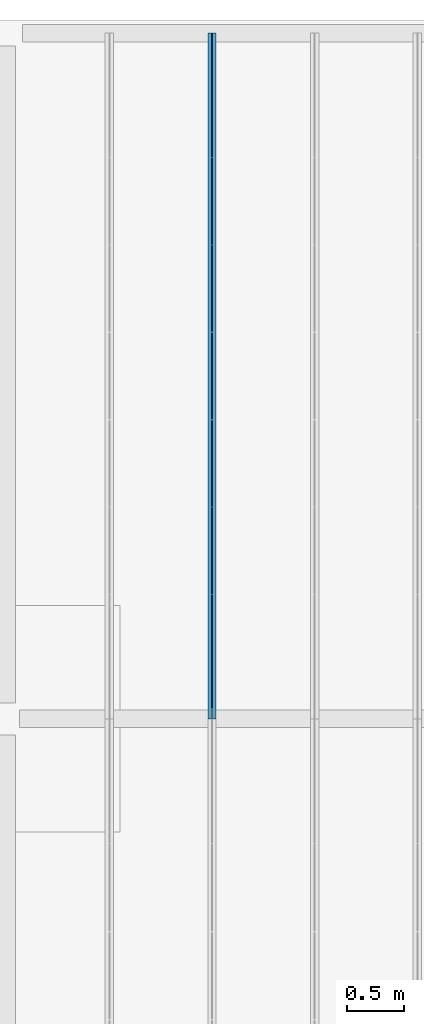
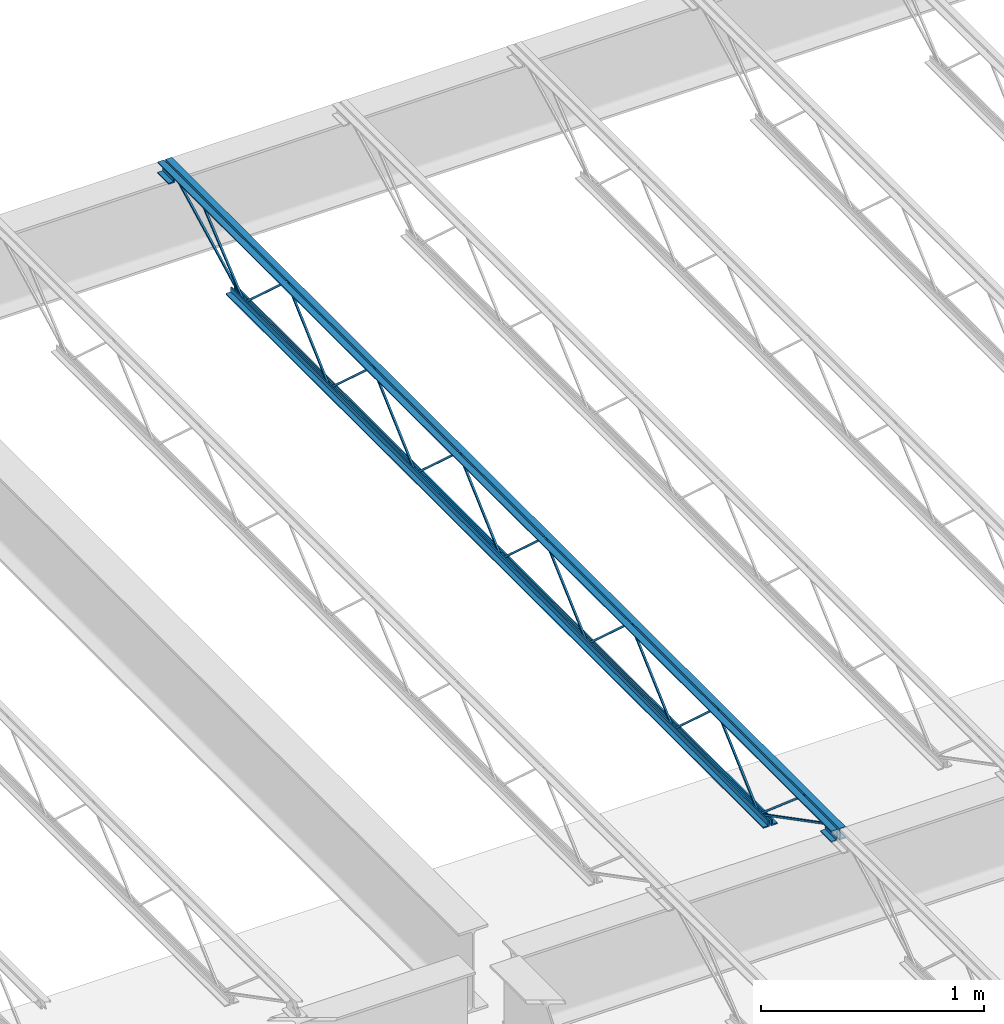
# One storey, part 41 of 75: 1 beam.
"""IFC2X3 building model written with IfcOpenShell, lengths in metres."""

from ifc_helpers import new_model, entity, si_unit, converted_unit, frame, origin, place, context, project, spatial, face_set, surface_model, element, save


model = new_model("IFC2X3")

# Units and contexts
model_context = context("Model", 3, precision=1e-09, world=origin())
plan_context = context("Plan", 3, precision=1e-09, world=origin())
ifc_project = project(units=[si_unit("LENGTHUNIT", "METRE"), si_unit("AREAUNIT", "SQUARE_METRE"), si_unit("VOLUMEUNIT", "CUBIC_METRE"), converted_unit("PLANEANGLEUNIT", "DEGREE", entity("IfcRatioMeasure", 0.01745329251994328), si_unit("PLANEANGLEUNIT", "RADIAN"), dimensions=[0, 0, 0, 0, 0, 0, 0]), si_unit("TIMEUNIT", "SECOND")], contexts=[model_context, plan_context])

# Site, building, storey
site_placement = place(None, origin())
site = spatial("IfcSite", under=ifc_project, at=site_placement, Name="Default", CompositionType="ELEMENT")
building_placement = place(site_placement, origin())
building = spatial("IfcBuilding", under=site, at=building_placement, CompositionType="ELEMENT")
storey_placement = place(building_placement, origin())
storey = spatial("IfcBuildingStorey", under=building, at=storey_placement, Name="First Floor", CompositionType="ELEMENT", Elevation=-3.531500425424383e-13)

# Beam
beam_placement = place(storey_placement, frame((-45.22532142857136, 50.09000000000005, 4.112000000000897), z_axis=(0.0, 0.0, 1.0), x_axis=(-1.0, 0.0, 0.0)))
element("IfcBeam", 1, at=beam_placement, inside=storey, Name="M_K-Series Bar Joist-Rod Web:14K1:14K1", ObjectType="M_K-Series Bar Joist-Rod Web:14K1", context=model_context, shape_type="SurfaceModel", body=[
    surface_model("IfcFaceBasedSurfaceModel", [(-0.03200000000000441, -2.254000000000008, 0.01110000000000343), (-0.0415000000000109, -2.254000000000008, 0.01110000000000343), (-0.0415000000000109, -2.254000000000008, 0.001600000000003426), (-0.03200000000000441, -2.254000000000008, 0.001600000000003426), (-0.04150000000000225, -2.252655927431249, 0.01110000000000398), (-0.03200000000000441, -2.252655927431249, 0.01110000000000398), (-0.04150000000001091, -2.248994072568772, 0.001600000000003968), (-0.04150000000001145, -1.869844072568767, 0.3449000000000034), (-0.04150000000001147, -1.86715592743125, 0.3449000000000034), (-0.04150000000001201, -1.48800592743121, 0.001600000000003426), (-0.04150000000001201, -1.483000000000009, 0.001600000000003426), (-0.04150000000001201, -1.483000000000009, 0.01110000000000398), (-0.04150000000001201, -1.484344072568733, 0.01110000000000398), (-0.04150000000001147, -1.863494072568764, 0.3544000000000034), (-0.04150000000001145, -1.873505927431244, 0.3544000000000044), (-0.03200000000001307, -2.248994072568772, 0.001600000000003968), (-0.03200000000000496, -1.869844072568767, 0.3449000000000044), (-0.03200000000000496, -1.86715592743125, 0.3449000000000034), (-0.0320000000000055, -1.48800592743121, 0.001600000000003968), (-0.03200000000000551, -1.483000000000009, 0.001600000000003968), (-0.03200000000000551, -1.483000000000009, 0.01110000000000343), (-0.0320000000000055, -1.484344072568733, 0.01110000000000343), (-0.03200000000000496, -1.863494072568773, 0.3544000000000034), (-0.03200000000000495, -1.873505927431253, 0.3544000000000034), (-0.0320000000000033, -3.025000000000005, 0.01110000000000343), (-0.04150000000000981, -3.025000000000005, 0.01110000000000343), (-0.04150000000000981, -3.025000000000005, 0.001600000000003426), (-0.0320000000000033, -3.025000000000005, 0.001600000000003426), (-0.04150000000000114, -3.023655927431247, 0.01110000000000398), (-0.0320000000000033, -3.023655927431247, 0.01110000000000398), (-0.04150000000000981, -3.01999407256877, 0.001600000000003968), (-0.04150000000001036, -2.640844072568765, 0.3449000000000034), (-0.04150000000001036, -2.638155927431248, 0.3449000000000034), (-0.0415000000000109, -2.259005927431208, 0.001600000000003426), (-0.0415000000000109, -2.254000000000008, 0.01110000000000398), (-0.0415000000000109, -2.255344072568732, 0.01110000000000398), (-0.04150000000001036, -2.634494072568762, 0.3544000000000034), (-0.04150000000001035, -2.644505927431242, 0.3544000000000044), (-0.03200000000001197, -3.01999407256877, 0.001600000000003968), (-0.03200000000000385, -2.640844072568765, 0.3449000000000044), (-0.03200000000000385, -2.638155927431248, 0.3449000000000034), (-0.03200000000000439, -2.259005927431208, 0.001600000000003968), (-0.03200000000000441, -2.254000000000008, 0.001600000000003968), (-0.0320000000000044, -2.255344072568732, 0.01110000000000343), (-0.03200000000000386, -2.634494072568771, 0.3544000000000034), (-0.03200000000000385, -2.644505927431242, 0.3544000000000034), (-0.03200000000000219, -3.796000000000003, 0.01110000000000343), (-0.0415000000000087, -3.796000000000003, 0.01110000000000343), (-0.0415000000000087, -3.796000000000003, 0.001600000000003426), (-0.03200000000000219, -3.796000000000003, 0.001600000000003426), (-0.04150000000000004, -3.794655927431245, 0.01110000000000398), (-0.03200000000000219, -3.794655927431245, 0.01110000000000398), (-0.0415000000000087, -3.790994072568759, 0.001600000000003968), (-0.04150000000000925, -3.411844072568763, 0.3449000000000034), (-0.04150000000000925, -3.409155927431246, 0.3449000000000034), (-0.04150000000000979, -3.030005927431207, 0.001600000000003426), (-0.04150000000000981, -3.025000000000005, 0.01110000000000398), (-0.04150000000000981, -3.026344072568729, 0.01110000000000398), (-0.04150000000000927, -3.40549407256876, 0.3544000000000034), (-0.04150000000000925, -3.41550592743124, 0.3544000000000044), (-0.03200000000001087, -3.790994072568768, 0.001600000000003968), (-0.03200000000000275, -3.411844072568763, 0.3449000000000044), (-0.03200000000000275, -3.409155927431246, 0.3449000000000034), (-0.03200000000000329, -3.030005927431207, 0.001600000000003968), (-0.0320000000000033, -3.025000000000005, 0.001600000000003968), (-0.0320000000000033, -3.026344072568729, 0.01110000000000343), (-0.03200000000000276, -3.40549407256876, 0.3544000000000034), (-0.03200000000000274, -3.41550592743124, 0.3544000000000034), (-0.03200000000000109, -4.567000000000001, 0.01110000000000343), (-0.04150000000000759, -4.567000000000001, 0.01110000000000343), (-0.04150000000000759, -4.567000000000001, 0.001600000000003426), (-0.03200000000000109, -4.567000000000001, 0.001600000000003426), (-0.04149999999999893, -4.565655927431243, 0.01110000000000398), (-0.03200000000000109, -4.565655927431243, 0.01110000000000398), (-0.04150000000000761, -4.561994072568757, 0.001600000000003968), (-0.04150000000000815, -4.182844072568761, 0.3449000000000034), (-0.04150000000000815, -4.180155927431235, 0.3449000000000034), (-0.0415000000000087, -3.801005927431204, 0.001600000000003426), (-0.0415000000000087, -3.795999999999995, 0.001600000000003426), (-0.0415000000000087, -3.796000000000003, 0.01110000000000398), (-0.0415000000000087, -3.797344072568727, 0.01110000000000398), (-0.04150000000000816, -4.176494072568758, 0.3544000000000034), (-0.04150000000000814, -4.186505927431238, 0.3544000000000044), (-0.03200000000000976, -4.561994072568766, 0.001600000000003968), (-0.03200000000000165, -4.182844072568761, 0.3449000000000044), (-0.03200000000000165, -4.180155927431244, 0.3449000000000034), (-0.03200000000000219, -3.801005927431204, 0.001600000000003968), (-0.03200000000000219, -3.796000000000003, 0.001600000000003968), (-0.03200000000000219, -3.795999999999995, 0.01110000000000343), (-0.03200000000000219, -3.797344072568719, 0.01110000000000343), (-0.03200000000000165, -4.176494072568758, 0.3544000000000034), (-0.03200000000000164, -4.186505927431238, 0.3544000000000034), (-0.03200000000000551, -1.483000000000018, 0.01109999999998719), (-0.04150000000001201, -1.483000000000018, 0.01109999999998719), (-0.04150000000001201, -1.483000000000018, 0.001599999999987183), (-0.03200000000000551, -1.483000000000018, 0.001599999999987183), (-0.04150000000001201, -1.48165592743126, 0.01109999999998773), (-0.03200000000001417, -1.48165592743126, 0.01109999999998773), (-0.04150000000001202, -1.477994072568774, 0.001599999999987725), (-0.04150000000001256, -1.098844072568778, 0.3448999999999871), (-0.04150000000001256, -1.096155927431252, 0.3448999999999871), (-0.04150000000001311, -0.717005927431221, 0.001599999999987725), (-0.04150000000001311, -0.7120000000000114, 0.001599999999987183), (-0.04150000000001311, -0.7120000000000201, 0.01109999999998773), (-0.04150000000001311, -0.713344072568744, 0.01109999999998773), (-0.04150000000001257, -1.092494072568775, 0.3543999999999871), (-0.04150000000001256, -1.102505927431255, 0.3543999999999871), (-0.03200000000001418, -1.477994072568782, 0.001599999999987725), (-0.03200000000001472, -1.098844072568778, 0.3448999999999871), (-0.03200000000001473, -1.09615592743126, 0.3448999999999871), (-0.03200000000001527, -0.717005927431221, 0.001599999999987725), (-0.03200000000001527, -0.7120000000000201, 0.001599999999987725), (-0.03200000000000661, -0.7120000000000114, 0.01109999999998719), (-0.03200000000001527, -0.7133440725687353, 0.01109999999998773), (-0.03200000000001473, -1.092494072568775, 0.3543999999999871), (-0.03200000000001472, -1.102505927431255, 0.3543999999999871), (-0.03199999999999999, -5.33799999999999, 0.01110000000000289), (-0.04150000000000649, -5.33799999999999, 0.01110000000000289), (-0.04150000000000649, -5.33799999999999, 0.001600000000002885), (-0.03199999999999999, -5.33799999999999, 0.001600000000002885), (-0.04149999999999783, -5.336655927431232, 0.01110000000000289), (-0.03199999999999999, -5.336655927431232, 0.01110000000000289), (-0.0415000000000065, -5.332994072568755, 0.001600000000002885), (-0.04150000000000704, -4.95384407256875, 0.3449000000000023), (-0.04150000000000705, -4.951155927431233, 0.3449000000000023), (-0.04150000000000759, -4.572005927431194, 0.001600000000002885), (-0.04150000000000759, -4.566999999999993, 0.001600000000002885), (-0.04150000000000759, -4.566999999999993, 0.01110000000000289), (-0.04150000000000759, -4.568344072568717, 0.01110000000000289), (-0.04150000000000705, -4.947494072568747, 0.3544000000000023), (-0.04150000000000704, -4.957505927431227, 0.3544000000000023), (-0.03200000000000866, -5.332994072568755, 0.001600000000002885), (-0.03200000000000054, -4.95384407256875, 0.3449000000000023), (-0.03200000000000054, -4.951155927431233, 0.3449000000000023), (-0.03200000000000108, -4.572005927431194, 0.001600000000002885), (-0.03200000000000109, -4.566999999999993, 0.001600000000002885), (-0.03200000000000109, -4.566999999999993, 0.01110000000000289), (-0.03200000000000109, -4.568344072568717, 0.01110000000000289), (-0.03200000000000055, -4.947494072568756, 0.3544000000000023), (-0.03200000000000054, -4.957505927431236, 0.3544000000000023), (-0.04150000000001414, 0.0, 0.3559999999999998), (-0.07350000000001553, 0.0, 0.3559999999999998), (-0.07350000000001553, 0.0, 0.349499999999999), (-0.04800000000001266, 0.0, 0.349499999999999), (-0.04800000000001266, 0.0, 0.3239999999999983), (-0.04150000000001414, 0.0, 0.3239999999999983), (-0.03200000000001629, 0.0, 0.3559999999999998), (-0.03200000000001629, 0.0, 0.3239999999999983), (-0.02550000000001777, 0.0, 0.3239999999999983), (-0.02550000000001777, 0.0, 0.349499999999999), (0.0, 0.0, 0.349499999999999), (0.0, 0.0, 0.3559999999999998), (-0.04150000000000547, -6.049999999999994, 0.3559999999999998), (-0.07350000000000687, -6.049999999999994, 0.3559999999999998), (-0.07350000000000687, -6.049999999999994, 0.349499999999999), (-0.048000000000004, -6.049999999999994, 0.349499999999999), (-0.048000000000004, -6.049999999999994, 0.3239999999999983), (-0.04150000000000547, -6.049999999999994, 0.3239999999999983), (-0.03200000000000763, -6.049999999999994, 0.3559999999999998), (-0.03200000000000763, -6.049999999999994, 0.3239999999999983), (-0.02550000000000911, -6.049999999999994, 0.3239999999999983), (-0.02550000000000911, -6.049999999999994, 0.349499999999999), (0.0, -6.049999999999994, 0.349499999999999), (0.0, -6.049999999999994, 0.3559999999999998), (-0.03199999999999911, -5.950000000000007, 0.2924999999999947), (0.0, -5.950000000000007, 0.2924999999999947), (0.0, -5.950000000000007, 0.2989999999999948), (-0.02550000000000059, -5.950000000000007, 0.2989999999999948), (-0.02550000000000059, -5.950000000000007, 0.3239999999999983), (-0.03199999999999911, -5.950000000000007, 0.3239999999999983), (-0.07349999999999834, -5.950000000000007, 0.2924999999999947), (-0.04149999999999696, -5.950000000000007, 0.2924999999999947), (-0.04149999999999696, -5.950000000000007, 0.3239999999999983), (-0.04799999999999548, -5.950000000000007, 0.3239999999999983), (-0.04799999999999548, -5.950000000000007, 0.2989999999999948), (-0.07349999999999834, -5.950000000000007, 0.2989999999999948), (-0.03199999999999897, -6.049999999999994, 0.2924999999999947), (0.0, -6.049999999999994, 0.2924999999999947), (0.0, -6.049999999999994, 0.2989999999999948), (-0.02550000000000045, -6.049999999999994, 0.2989999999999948), (-0.02550000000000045, -6.049999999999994, 0.3239999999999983), (-0.03199999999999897, -6.049999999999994, 0.3239999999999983), (-0.07349999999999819, -6.049999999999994, 0.2924999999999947), (-0.04149999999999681, -6.049999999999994, 0.2924999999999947), (-0.04149999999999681, -6.049999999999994, 0.3239999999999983), (-0.04799999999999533, -6.049999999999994, 0.3239999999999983), (-0.04799999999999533, -6.049999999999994, 0.2989999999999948), (-0.07349999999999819, -6.049999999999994, 0.2989999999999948), (-0.04150000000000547, 0.0, 0.2924999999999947), (-0.04150000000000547, 0.0, 0.3239999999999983), (-0.048000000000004, 0.0, 0.3239999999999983), (-0.048000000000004, 0.0, 0.2989999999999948), (-0.07350000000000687, 0.0, 0.2989999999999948), (-0.07350000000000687, 0.0, 0.2924999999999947), (-0.03200000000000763, 0.0, 0.2924999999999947), (0.0, 0.0, 0.2924999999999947), (0.0, 0.0, 0.2989999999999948), (-0.02550000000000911, 0.0, 0.2989999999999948), (-0.02550000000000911, 0.0, 0.3239999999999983), (-0.03200000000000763, 0.0, 0.3239999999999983), (-0.04150000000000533, -0.0999999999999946, 0.2924999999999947), (-0.04150000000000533, -0.0999999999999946, 0.3239999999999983), (-0.04800000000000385, -0.0999999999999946, 0.3239999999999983), (-0.04800000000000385, -0.0999999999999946, 0.2989999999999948), (-0.07350000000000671, -0.0999999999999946, 0.2989999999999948), (-0.07350000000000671, -0.0999999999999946, 0.2924999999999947), (-0.03200000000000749, -0.0999999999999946, 0.2924999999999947), (0.0, -0.0999999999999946, 0.2924999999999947), (0.0, -0.0999999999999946, 0.2989999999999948), (-0.02550000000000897, -0.0999999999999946, 0.2989999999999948), (-0.02550000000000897, -0.0999999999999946, 0.3239999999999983), (-0.03200000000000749, -0.0999999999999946, 0.3239999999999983), (-0.04150000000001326, -0.6119999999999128, 0.0), (-0.04150000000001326, -0.6119999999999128, 0.03199999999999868), (-0.04800000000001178, -0.6119999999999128, 0.03199999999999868), (-0.04800000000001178, -0.6119999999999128, 0.006499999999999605), (-0.07350000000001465, -0.6119999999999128, 0.006499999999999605), (-0.07350000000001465, -0.6119999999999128, 0.0), (-0.03200000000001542, -0.6119999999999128, 0.0), (0.0, -0.6119999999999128, 0.0), (0.0, -0.6119999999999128, 0.006499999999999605), (-0.0255000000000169, -0.6119999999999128, 0.006499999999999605), (-0.0255000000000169, -0.6119999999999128, 0.03199999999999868), (-0.03200000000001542, -0.6119999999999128, 0.03199999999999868), (-0.04150000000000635, -5.437999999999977, 0.0), (-0.04150000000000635, -5.437999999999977, 0.03199999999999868), (-0.04800000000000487, -5.437999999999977, 0.03199999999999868), (-0.04800000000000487, -5.437999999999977, 0.006499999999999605), (-0.07350000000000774, -5.437999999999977, 0.006499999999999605), (-0.07350000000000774, -5.437999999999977, 0.0), (-0.03200000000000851, -5.437999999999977, 0.0), (0.0, -5.437999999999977, 0.0), (0.0, -5.437999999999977, 0.006499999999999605), (-0.02550000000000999, -5.437999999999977, 0.006499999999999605), (-0.02550000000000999, -5.437999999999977, 0.03199999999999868), (-0.03200000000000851, -5.437999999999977, 0.03199999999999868), (-0.03199999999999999, -5.335811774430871, 0.01056594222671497), (-0.0415000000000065, -5.335811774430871, 0.01056594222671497), (-0.04150000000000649, -5.34018822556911, 0.002134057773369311), (-0.03199999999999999, -5.34018822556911, 0.002134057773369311), (-0.03199999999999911, -5.948840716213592, 0.3287499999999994), (-0.03199999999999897, -6.049999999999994, 0.3287499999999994), (-0.03199999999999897, -6.049999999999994, 0.3192499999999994), (-0.03199999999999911, -5.951159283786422, 0.3192499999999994), (-0.04149999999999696, -5.951159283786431, 0.3192499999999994), (-0.04150000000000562, -5.948840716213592, 0.3287499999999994), (-0.04150000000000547, -6.049999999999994, 0.3287499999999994), (-0.04150000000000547, -6.049999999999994, 0.3192499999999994), (-0.03199999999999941, -5.743457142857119, 0.341700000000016), (-0.04150000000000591, -5.743457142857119, 0.341700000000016), (-0.04150000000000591, -5.743457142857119, 0.332200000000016), (-0.03199999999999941, -5.743457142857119, 0.332200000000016), (-0.04149999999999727, -5.729024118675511, 0.341700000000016), (-0.03199999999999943, -5.729024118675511, 0.341700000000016), (-0.04150000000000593, -5.732490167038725, 0.332200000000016), (-0.04150000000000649, -5.341058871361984, 0.002716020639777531), (-0.0415000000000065, -5.334941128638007, 0.009983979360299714), (-0.03200000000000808, -5.732490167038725, 0.332200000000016), (-0.03199999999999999, -5.341058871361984, 0.002716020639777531), (-0.03199999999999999, -5.334941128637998, 0.009983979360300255), (-0.0320000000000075, -0.09781177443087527, 0.3197840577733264), (-0.03200000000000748, -0.1021882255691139, 0.3282159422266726), (-0.04150000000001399, -0.1021882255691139, 0.3282159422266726), (-0.04150000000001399, -0.09781177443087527, 0.3197840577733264), (-0.03200000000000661, -0.7098117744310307, 0.002134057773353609), (-0.03200000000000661, -0.7141882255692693, 0.01056594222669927), (-0.04150000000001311, -0.7141882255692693, 0.01056594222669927), (-0.04150000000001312, -0.7098117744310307, 0.002134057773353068), (-0.03200000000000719, -0.3088922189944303, 0.3460454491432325), (-0.03200000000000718, -0.3150792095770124, 0.3532545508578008), (-0.04150000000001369, -0.3150792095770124, 0.3532545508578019), (-0.04150000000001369, -0.3088922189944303, 0.3460454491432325), (-0.03200000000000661, -0.7089065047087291, 0.002745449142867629), (-0.03200000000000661, -0.715093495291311, 0.009954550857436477), (-0.04150000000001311, -0.715093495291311, 0.009954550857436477), (-0.04150000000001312, -0.7089065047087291, 0.002745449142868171)], [face_set([[[0, 1, 2, 3]], [[1, 4, 5, 0]], [[2, 6, 7, 8, 9, 10, 11, 12, 13, 14, 4, 1]], [[3, 2, 6, 15]], [[0, 3, 15, 16, 17, 18, 19, 20, 21, 22, 23, 5]], [[4, 5, 23, 14]], [[15, 16, 7, 6]], [[14, 13, 22, 23]], [[16, 7, 8, 17]], [[13, 12, 21, 22]], [[17, 8, 9, 18]], [[20, 11, 10, 19]], [[12, 11, 20, 21]], [[18, 9, 10, 19]]]), face_set([[[24, 25, 26, 27]], [[25, 28, 29, 24]], [[26, 30, 31, 32, 33, 2, 34, 35, 36, 37, 28, 25]], [[27, 26, 30, 38]], [[24, 27, 38, 39, 40, 41, 42, 0, 43, 44, 45, 29]], [[28, 29, 45, 37]], [[38, 39, 31, 30]], [[37, 36, 44, 45]], [[39, 31, 32, 40]], [[36, 35, 43, 44]], [[40, 32, 33, 41]], [[0, 34, 2, 42]], [[35, 34, 0, 43]], [[41, 33, 2, 42]]]), face_set([[[46, 47, 48, 49]], [[47, 50, 51, 46]], [[48, 52, 53, 54, 55, 26, 56, 57, 58, 59, 50, 47]], [[49, 48, 52, 60]], [[46, 49, 60, 61, 62, 63, 64, 24, 65, 66, 67, 51]], [[50, 51, 67, 59]], [[60, 61, 53, 52]], [[59, 58, 66, 67]], [[61, 53, 54, 62]], [[58, 57, 65, 66]], [[62, 54, 55, 63]], [[24, 56, 26, 64]], [[57, 56, 24, 65]], [[63, 55, 26, 64]]]), face_set([[[68, 69, 70, 71]], [[69, 72, 73, 68]], [[70, 74, 75, 76, 77, 78, 79, 80, 81, 82, 72, 69]], [[71, 70, 74, 83]], [[68, 71, 83, 84, 85, 86, 87, 88, 89, 90, 91, 73]], [[72, 73, 91, 82]], [[83, 84, 75, 74]], [[82, 81, 90, 91]], [[84, 75, 76, 85]], [[81, 80, 89, 90]], [[85, 76, 77, 86]], [[88, 79, 78, 87]], [[80, 79, 88, 89]], [[86, 77, 78, 87]]]), face_set([[[92, 93, 94, 95]], [[93, 96, 97, 92]], [[94, 98, 99, 100, 101, 102, 103, 104, 105, 106, 96, 93]], [[95, 94, 98, 107]], [[92, 95, 107, 108, 109, 110, 111, 112, 113, 114, 115, 97]], [[96, 97, 115, 106]], [[107, 108, 99, 98]], [[106, 105, 114, 115]], [[108, 99, 100, 109]], [[105, 104, 113, 114]], [[109, 100, 101, 110]], [[112, 103, 102, 111]], [[104, 103, 112, 113]], [[110, 101, 102, 111]]]), face_set([[[116, 117, 118, 119]], [[117, 120, 121, 116]], [[118, 122, 123, 124, 125, 126, 127, 128, 129, 130, 120, 117]], [[119, 118, 122, 131]], [[116, 119, 131, 132, 133, 134, 135, 136, 137, 138, 139, 121]], [[120, 121, 139, 130]], [[131, 132, 123, 122]], [[130, 129, 138, 139]], [[132, 123, 124, 133]], [[129, 128, 137, 138]], [[133, 124, 125, 134]], [[136, 127, 126, 135]], [[128, 127, 136, 137]], [[134, 125, 126, 135]]]), face_set([[[140, 141, 142, 143, 144, 145]], [[146, 147, 148, 149, 150, 151]], [[152, 153, 154, 155, 156, 157]], [[158, 159, 160, 161, 162, 163]], [[145, 140, 152, 157]], [[144, 145, 157, 156]], [[143, 155, 156, 144]], [[142, 143, 155, 154]], [[141, 153, 154, 142]], [[140, 152, 153, 141]], [[151, 163, 158, 146]], [[150, 151, 163, 162]], [[149, 150, 162, 161]], [[148, 149, 161, 160]], [[147, 148, 160, 159]], [[146, 158, 159, 147]]]), face_set([[[164, 165, 166, 167, 168, 169]], [[170, 171, 172, 173, 174, 175]], [[176, 177, 178, 179, 180, 181]], [[182, 183, 184, 185, 186, 187]], [[169, 181, 176, 164]], [[168, 180, 181, 169]], [[167, 168, 180, 179]], [[166, 178, 179, 167]], [[165, 166, 178, 177]], [[164, 165, 177, 176]], [[175, 187, 182, 170]], [[174, 186, 187, 175]], [[173, 185, 186, 174]], [[172, 184, 185, 173]], [[171, 172, 184, 183]], [[170, 171, 183, 182]]]), face_set([[[188, 189, 190, 191, 192, 193]], [[194, 195, 196, 197, 198, 199]], [[200, 201, 202, 203, 204, 205]], [[206, 207, 208, 209, 210, 211]], [[193, 188, 200, 205]], [[192, 204, 205, 193]], [[191, 203, 204, 192]], [[190, 202, 203, 191]], [[189, 201, 202, 190]], [[188, 189, 201, 200]], [[199, 211, 206, 194]], [[198, 210, 211, 199]], [[197, 198, 210, 209]], [[196, 208, 209, 197]], [[195, 196, 208, 207]], [[194, 195, 207, 206]]]), face_set([[[212, 213, 214, 215, 216, 217]], [[218, 219, 220, 221, 222, 223]], [[224, 225, 226, 227, 228, 229]], [[230, 231, 232, 233, 234, 235]], [[217, 212, 224, 229]], [[216, 228, 229, 217]], [[215, 227, 228, 216]], [[214, 226, 227, 215]], [[213, 225, 226, 214]], [[212, 213, 225, 224]], [[223, 235, 230, 218]], [[222, 234, 235, 223]], [[221, 222, 234, 233]], [[220, 232, 233, 221]], [[219, 220, 232, 231]], [[218, 219, 231, 230]]]), face_set([[[236, 237, 238, 239]], [[239, 236, 240, 241, 242, 243]], [[238, 239, 243, 244]], [[237, 245, 246, 247, 244, 238]], [[236, 240, 245, 237]], [[241, 246, 247, 242]], [[244, 243, 242, 247]], [[240, 241, 246, 245]]]), face_set([[[248, 249, 250, 251]], [[249, 252, 253, 248]], [[250, 254, 255, 256, 252, 249]], [[251, 250, 254, 257]], [[248, 251, 257, 258, 259, 253]], [[259, 256, 255, 258]], [[252, 256, 259, 253]], [[257, 254, 255, 258]]]), face_set([[[260, 261, 262, 263]], [[264, 265, 266, 267]], [[263, 267, 264, 260]], [[262, 266, 267, 263]], [[261, 262, 266, 265]], [[260, 261, 265, 264]]]), face_set([[[268, 269, 270, 271]], [[272, 273, 274, 275]], [[271, 275, 272, 268]], [[270, 274, 275, 271]], [[269, 270, 274, 273]], [[268, 269, 273, 272]]])]),
])

save(model, "model.ifc")
